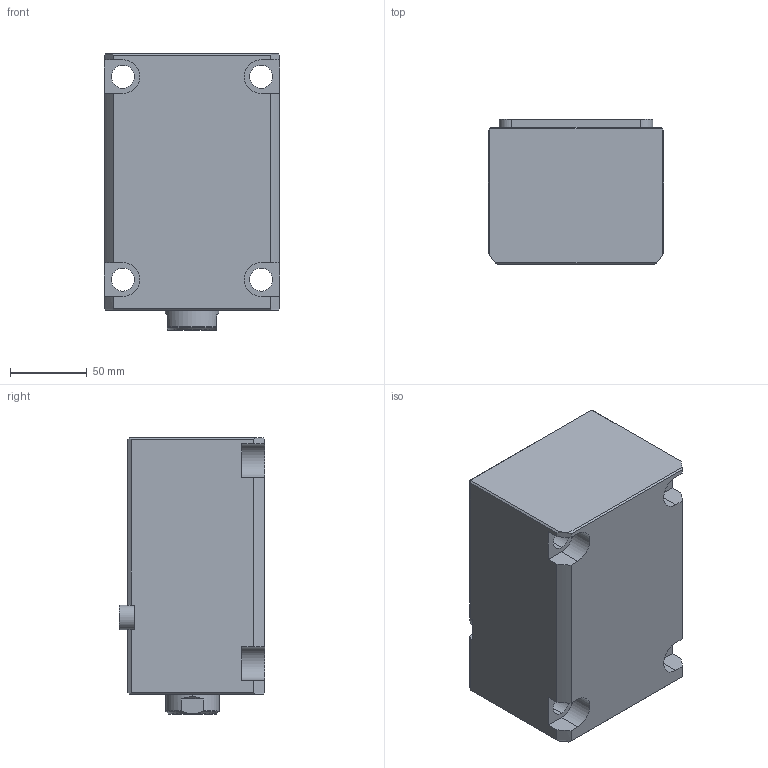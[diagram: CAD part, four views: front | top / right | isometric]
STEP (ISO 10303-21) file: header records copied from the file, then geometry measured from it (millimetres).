
FILE_DESCRIPTION (( 'STEP AP214' ), '1' );
FILE_NAME ('chtb-lam63x100n_asm.STEP', '2018-05-22T03:16:57', ( 'Windows' ), ( 'Microsoft' ), 'SwSTEP 2.0', 'SolidWorks 2015', '' );
FILE_SCHEMA (( 'AUTOMOTIVE_DESIGN' ));
Length unit declared in the file: millimetre
Products named in the file (5): CHTB-LAM63X100NBT; CHTB-LA63PJ; CHTB63X100NHSG; CHTB-63QG; chtb-lam63x100n_asm
Assembly tree (4 placements, depth 2):
  chtb-lam63x100n_asm
    CHTB-63QG
    CHTB63X100NHSG
    CHTB-LA63PJ
    CHTB-LAM63X100NBT
Bounding box: 114 x 94.5 x 180 mm (x, y, z)
Volume: 1402781.5 mm3; surface area: 186208.9 mm2
Topology: 4 solids, 4 shells, 183 faces, 539 edges, 366 vertices
Faces by surface type: cylinder 99, plane 55, bspline 13, cone 8, torus 8
Entity records: 19040 total; most frequent: CARTESIAN_POINT 14352, ORIENTED_EDGE 1066, DIRECTION 788, EDGE_CURVE 533, VERTEX_POINT 366, AXIS2_PLACEMENT_3D 291, LINE 206, VECTOR 206
